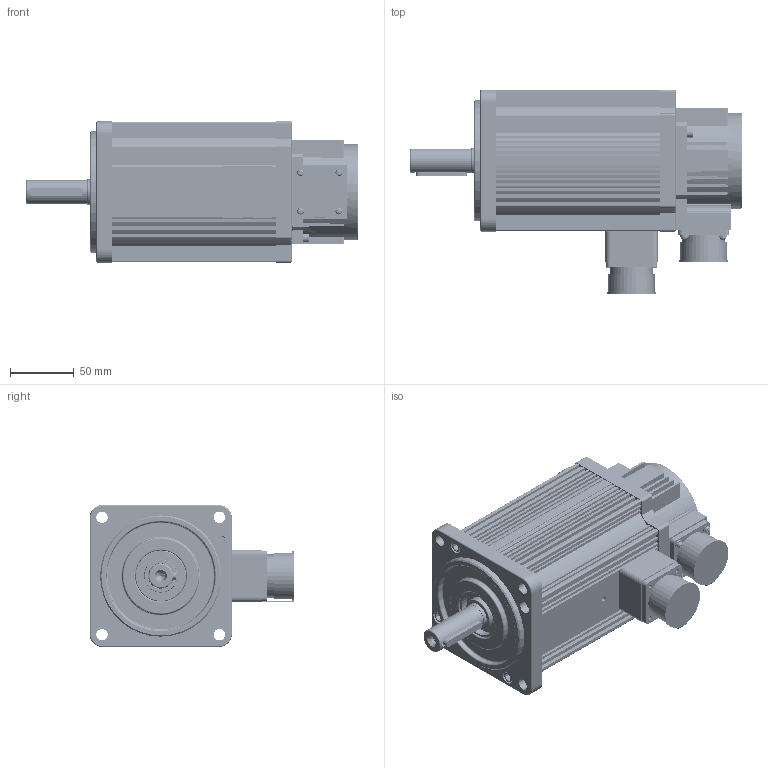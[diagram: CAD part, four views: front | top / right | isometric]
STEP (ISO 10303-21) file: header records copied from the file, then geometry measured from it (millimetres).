
FILE_DESCRIPTION (( 'STEP AP203' ), '1' );
FILE_NAME ('K1-110µç»ú 5Nm.STEP', '2020-01-11T02:26:27', ( 'gs' ), ( 'Microsoft' ), 'SwSTEP 2.0', 'SolidWorks 2019', '' );
FILE_SCHEMA (( 'CONFIG_CONTROL_DESIGN' ));
Length unit declared in the file: millimetre
Products named in the file (24): K1-110綴傷裔 譙跡; K1-130瑤脣15郋; M3す菜; K1-110粣 5Nm; K1-130瑤脣砎蝶菜; M3X8啋儂; K1-110蛌赽郪璃 5Nm; K1-130盄簽砎蝶菜; K1-130す瑩; K1-110晤鎢ん誘欶; K1-130諉盄釱; K1-110 O型密封圈变形后; K1-110儂褲樓馱綴 5Nm; K1-110密封圈; M4X12; K1-130誘欶躇猾菜; K1-110隅赽郪璃 5Nm; M5粟菜; curved single coil spring lock washers gb_GB_FASTENER_WASHER_CSLW 4; K1-130瑤脣雄薯盄; K1-110ヶ傷裔 譙跡; M5X20; M3X12啋儂; K1-110萇儂 5Nm
Assembly tree (59 placements, depth 3):
  K1-110萇儂 5Nm
    K1-110隅赽郪璃 5Nm
      K1-110儂褲樓馱綴 5Nm
    K1-110ヶ傷裔 譙跡
    K1-110綴傷裔 譙跡
    K1-110蛌赽郪璃 5Nm
      K1-110粣 5Nm
    K1-110晤鎢ん誘欶
    K1-110密封圈
    M5粟菜  x8
    M5X20  x7
    K1-130瑤脣15郋
    K1-130瑤脣砎蝶菜
    K1-130盄簽砎蝶菜  x2
    K1-130諉盄釱
    M4X12  x3
    curved single coil spring lock washers gb_GB_FASTENER_WASHER_CSLW 4  x8
    M3X12啋儂  x4
    M3す菜  x7
    M3X8啋儂  x4
    K1-130す瑩
    K1-110 O型密封圈变形后  x2
    K1-130誘欶躇猾菜
    K1-130瑤脣雄薯盄
Bounding box: 260 x 160.2 x 111.2 mm (x, y, z)
Volume: 756770.5 mm3; surface area: 385994.7 mm2
Topology: 59 solids, 61 shells, 3047 faces, 8204 edges, 5393 vertices
Faces by surface type: cylinder 1833, plane 959, bspline 120, cone 73, torus 62
Entity records: 117915 total; most frequent: CARTESIAN_POINT 67371, ORIENTED_EDGE 10808, DIRECTION 8910, EDGE_CURVE 5404, VERTEX_POINT 3551, AXIS2_PLACEMENT_3D 3145, VECTOR 2620, LINE 2620
